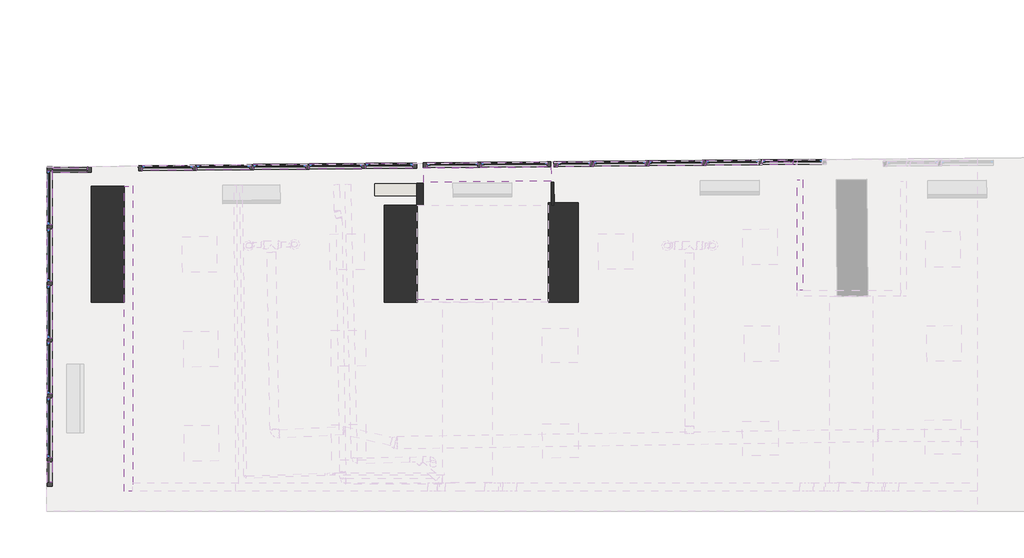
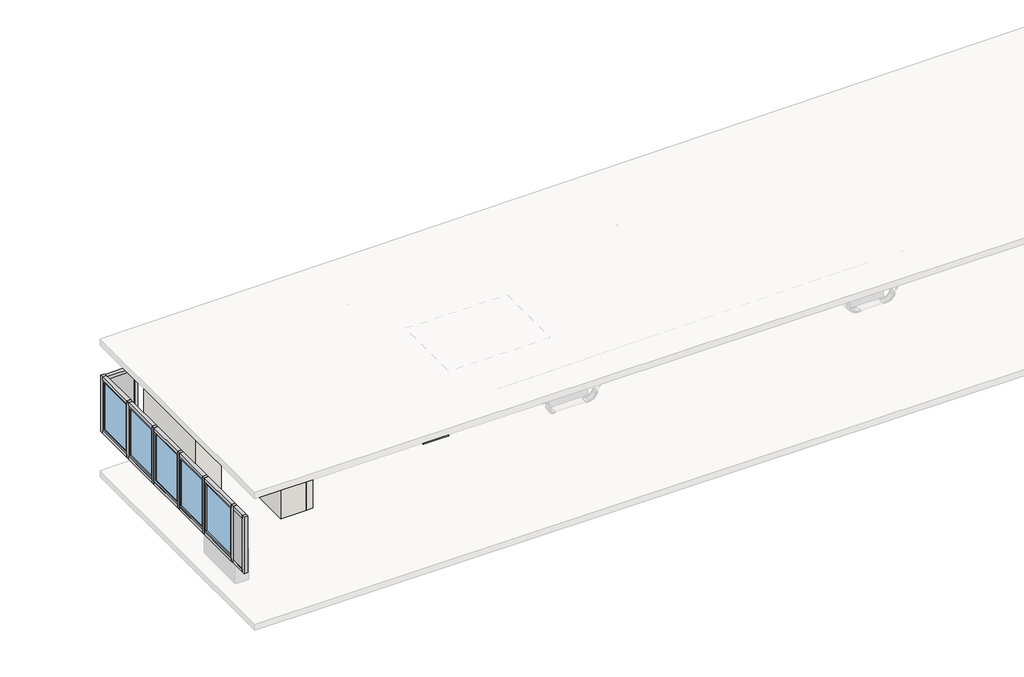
# One storey, part 1 of 8: 65 members, 18 windows, 10 walls, 2 plates.
"""IFC4 building model written with IfcOpenShell, lengths in millimetres."""

from ifc_helpers import new_model, si_unit, frame, origin, origin_with_axes, place, context, project, spatial, polyline, outline, extrude, faceted_brep, transform, mapped, element, save
from components import member_1d54d513, member_5f6233c0, member_701f3c1c, member_294ba3bf, member_2f45b62e, member_2e66d5be, member_0a0ddee2, member_9fea516c, member_449b8b0a, member_4e125583, member_1d18c5b6, member_edd1fded, member_3c992937, member_a387d0b7, member_274769e7, member_c3e0f3cf, member_8cefbdd1, member_f4af639a, member_dbbe5297, member_41a117a3, member_0174ca3d, member_7c31a16b, member_f5f536f5, member_f035e081, member_b95b39b1, member_4f72c76e, member_7ba8fbd5, member_18ee34ea, system_panel_glazed_8b8e7e0a, plate_85dd41af, curtain_wall_awning_curtain_wall_awning_2_f2d84640, curtain_wall_awning_curtain_wall_awning_2_74a93b62, curtain_wall_awning_curtain_wall_awning_2_efb4c519, curtain_wall_awning_curtain_wall_awning_2_b29e44a4, curtain_wall_awning_curtain_wall_awning_2_605577ea, curtain_wall_awning_curtain_wall_awning_2_abebb6bf, curtain_wall_awning_curtain_wall_awning_2_79e40004, curtain_wall_awning_curtain_wall_awning_2_1929c9be, curtain_wall_awning_curtain_wall_awning_2_0397bcab, curtain_wall_awning_curtain_wall_awning_2_7b8b8e84, curtain_wall_awning_curtain_wall_awning_2_373db1d4, curtain_wall_awning_curtain_wall_awning_2_e246922d, curtain_wall_awning_curtain_wall_awning_2_ee0f351f, curtain_wall_awning_curtain_wall_awning_2_a05563cf, curtain_wall_awning_curtain_wall_awning_2_6cab0b61, curtain_wall_awning_curtain_wall_awning_2_2b56300f, curtain_wall_awning_curtain_wall_awning_2_1036b38f

model = new_model("IFC4")

# Units and contexts
model_context = context("Model", 3, world=origin())
ifc_project = project(units=[si_unit("LENGTHUNIT", "METRE", prefix="MILLI")], contexts=[model_context])

# Site, building, storey
site = spatial("IfcSite", under=ifc_project)
building = spatial("IfcBuilding", under=site)
storey = spatial("IfcBuildingStorey", under=building, Name="GFL", Elevation=0.0)

# Members
placement = place(None, origin())
member_shape = member_1d54d513(model_context)
element("IfcMember", 1, ObjectType="Rectangular Mullion : 2.5\" x 5\" rectangular 2", at=placement, inside=storey, context=model_context, shape_type="MappedRepresentation", body=[
    mapped(member_shape, transform((-45371.0223245, 1429.4491383, 2307.6227604), x_axis=(0.0, -1.0, 0.0), y_axis=(1.0, 0.0, 0.0), z_axis=(0.0, 0.0, 1.0))),
])
element("IfcMember", 2, ObjectType="Rectangular Mullion : 2.5\" x 5\" rectangular 2", at=placement, inside=storey, context=model_context, shape_type="MappedRepresentation", body=[
    mapped(member_shape, transform((-44630.6803923, 7038.9935743, 2307.6227604), x_axis=(0.999958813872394, 0.009075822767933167, 0.0), y_axis=(-0.009075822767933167, 0.999958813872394, 0.0), z_axis=(0.0, 0.0, 1.0))),
])
member_2_shape = member_5f6233c0(model_context)
element("IfcMember", 3, ObjectType="Rectangular Mullion : 2.5\" x 5\" rectangular 2", at=placement, inside=storey, context=model_context, shape_type="MappedRepresentation", body=[
    mapped(member_2_shape, transform((-45371.0223245, 1896.1741383, 941.5427435), x_axis=(0.0, 1.0, 0.0), y_axis=(1.0, 0.0, 0.0), z_axis=(0.0, 0.0, -1.0))),
])
element("IfcMember", 4, ObjectType="Rectangular Mullion : 2.5\" x 5\" rectangular 2", at=placement, inside=storey, context=model_context, shape_type="MappedRepresentation", body=[
    mapped(member_2_shape, transform((-45371.0223245, 3029.6491383, 941.5427435), x_axis=(0.0, 1.0, 0.0), y_axis=(1.0, 0.0, 0.0), z_axis=(0.0, 0.0, -1.0))),
])
element("IfcMember", 5, ObjectType="Rectangular Mullion : 2.5\" x 5\" rectangular 2", at=placement, inside=storey, context=model_context, shape_type="MappedRepresentation", body=[
    mapped(member_2_shape, transform((-45371.0223245, 4020.2491383, 941.5427435), x_axis=(0.0, 1.0, 0.0), y_axis=(1.0, 0.0, 0.0), z_axis=(0.0, 0.0, -1.0))),
])
element("IfcMember", 6, ObjectType="Rectangular Mullion : 2.5\" x 5\" rectangular 2", at=placement, inside=storey, context=model_context, shape_type="MappedRepresentation", body=[
    mapped(member_2_shape, transform((-45371.0223245, 5024.4724572, 941.5427435), x_axis=(0.0, 1.0, 0.0), y_axis=(1.0, 0.0, 0.0), z_axis=(0.0, 0.0, -1.0))),
])
element("IfcMember", 7, ObjectType="Rectangular Mullion : 2.5\" x 5\" rectangular 2", at=placement, inside=storey, context=model_context, shape_type="MappedRepresentation", body=[
    mapped(member_2_shape, transform((-45371.0223245, 6028.6957761, 941.5427435), x_axis=(0.0, 1.0, 0.0), y_axis=(1.0, 0.0, 0.0), z_axis=(0.0, 0.0, -1.0))),
])
element("IfcMember", 8, ObjectType="Rectangular Mullion : 2.5\" x 5\" rectangular 2", at=placement, inside=storey, context=model_context, shape_type="MappedRepresentation", body=[
    mapped(member_shape, transform((-45371.0223245, 7096.9057421, 941.5427435), x_axis=(0.0, 1.0, 0.0), y_axis=(1.0, 0.0, 0.0), z_axis=(0.0, 0.0, -1.0))),
])
member_3_shape = member_701f3c1c(model_context)
element("IfcMember", 9, ObjectType="Rectangular Mullion : 2.5\" x 5\" rectangular 2", at=placement, inside=storey, context=model_context, shape_type="MappedRepresentation", body=[
    mapped(member_3_shape, transform((-45371.0223245, 1499.2991383, 941.5427435), x_axis=(0.0, 0.0, -1.0), y_axis=(1.0, 0.0, 0.0), z_axis=(0.0, -1.0, 0.0))),
])
element("IfcMember", 10, ObjectType="Rectangular Mullion : 2.5\" x 5\" rectangular 2", at=placement, inside=storey, context=model_context, shape_type="MappedRepresentation", body=[
    mapped(member_3_shape, transform((-45371.0223245, 1864.4241383, 2307.6227604), x_axis=(0.0, 0.0, 1.0), y_axis=(1.0, 0.0, 0.0), z_axis=(0.0, 1.0, 0.0))),
])
member_4_shape = member_294ba3bf(model_context)
element("IfcMember", 11, ObjectType="Rectangular Mullion : 2.5\" x 5\" rectangular 2", at=placement, inside=storey, context=model_context, shape_type="MappedRepresentation", body=[
    mapped(member_4_shape, transform((-45371.0223245, 1934.2741383, 941.5427435), x_axis=(0.0, 0.0, -1.0), y_axis=(1.0, 0.0, 0.0), z_axis=(0.0, -1.0, 0.0))),
])
element("IfcMember", 12, ObjectType="Rectangular Mullion : 2.5\" x 5\" rectangular 2", at=placement, inside=storey, context=model_context, shape_type="MappedRepresentation", body=[
    mapped(member_4_shape, transform((-45371.0223245, 2997.8991383, 2307.6227604), x_axis=(0.0, 0.0, 1.0), y_axis=(1.0, 0.0, 0.0), z_axis=(0.0, 1.0, 0.0))),
])
member_5_shape = member_2f45b62e(model_context)
element("IfcMember", 13, ObjectType="Rectangular Mullion : 2.5\" x 5\" rectangular 2", at=placement, inside=storey, context=model_context, shape_type="MappedRepresentation", body=[
    mapped(member_5_shape, transform((-45371.0223245, 3988.4991383, 2307.6227604), x_axis=(0.0, 0.0, 1.0), y_axis=(1.0, 0.0, 0.0), z_axis=(0.0, 1.0, 0.0))),
])
element("IfcMember", 14, ObjectType="Rectangular Mullion : 2.5\" x 5\" rectangular 2", at=placement, inside=storey, context=model_context, shape_type="MappedRepresentation", body=[
    mapped(member_5_shape, transform((-45371.0223245, 3067.7491383, 941.5427435), x_axis=(0.0, 0.0, -1.0), y_axis=(1.0, 0.0, 0.0), z_axis=(0.0, -1.0, 0.0))),
])
member_6_shape = member_2e66d5be(model_context)
element("IfcMember", 15, ObjectType="Rectangular Mullion : 2.5\" x 5\" rectangular 2", at=placement, inside=storey, context=model_context, shape_type="MappedRepresentation", body=[
    mapped(member_6_shape, transform((-45371.0223245, 4058.3491383, 941.5427435), x_axis=(0.0, 0.0, -1.0), y_axis=(1.0, 0.0, 0.0), z_axis=(0.0, -1.0, 0.0))),
])
element("IfcMember", 16, ObjectType="Rectangular Mullion : 2.5\" x 5\" rectangular 2", at=placement, inside=storey, context=model_context, shape_type="MappedRepresentation", body=[
    mapped(member_6_shape, transform((-45371.0223245, 5062.5724572, 941.5427435), x_axis=(0.0, 0.0, -1.0), y_axis=(1.0, 0.0, 0.0), z_axis=(0.0, -1.0, 0.0))),
])
element("IfcMember", 17, ObjectType="Rectangular Mullion : 2.5\" x 5\" rectangular 2", at=placement, inside=storey, context=model_context, shape_type="MappedRepresentation", body=[
    mapped(member_6_shape, transform((-45371.0223245, 4992.7224572, 2307.6227604), x_axis=(0.0, 0.0, 1.0), y_axis=(1.0, 0.0, 0.0), z_axis=(0.0, 1.0, 0.0))),
])
element("IfcMember", 18, ObjectType="Rectangular Mullion : 2.5\" x 5\" rectangular 2", at=placement, inside=storey, context=model_context, shape_type="MappedRepresentation", body=[
    mapped(member_6_shape, transform((-45371.0223245, 5996.9457761, 2307.6227604), x_axis=(0.0, 0.0, 1.0), y_axis=(1.0, 0.0, 0.0), z_axis=(0.0, 1.0, 0.0))),
])
member_7_shape = member_0a0ddee2(model_context)
element("IfcMember", 19, ObjectType="Rectangular Mullion : 2.5\" x 5\" rectangular 2", at=placement, inside=storey, context=model_context, shape_type="MappedRepresentation", body=[
    mapped(member_7_shape, transform((-42800.2985475, 7081.0053764, 941.5427435), x_axis=(0.999958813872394, 0.009075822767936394, 0.0), y_axis=(0.009075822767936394, -0.999958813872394, 0.0), z_axis=(0.0, 0.0, -1.0))),
])
element("IfcMember", 20, ObjectType="Rectangular Mullion : 2.5\" x 5\" rectangular 2", at=placement, inside=storey, context=model_context, shape_type="MappedRepresentation", body=[
    mapped(member_7_shape, transform((-41793.8650003, 7090.1399651, 941.5427435), x_axis=(0.999958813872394, 0.009075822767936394, 0.0), y_axis=(0.009075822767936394, -0.999958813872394, 0.0), z_axis=(0.0, 0.0, -1.0))),
])
element("IfcMember", 21, ObjectType="Rectangular Mullion : 2.5\" x 5\" rectangular 2", at=placement, inside=storey, context=model_context, shape_type="MappedRepresentation", body=[
    mapped(member_7_shape, transform((-39802.1637008, 7108.2170377, 941.5427435), x_axis=(0.999958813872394, 0.009075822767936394, 0.0), y_axis=(0.009075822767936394, -0.999958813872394, 0.0), z_axis=(0.0, 0.0, -1.0))),
])
element("IfcMember", 22, ObjectType="Rectangular Mullion : 2.5\" x 5\" rectangular 2", at=placement, inside=storey, context=model_context, shape_type="MappedRepresentation", body=[
    mapped(member_7_shape, transform((-40801.1892198, 7099.1496857, 941.5427435), x_axis=(0.999958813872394, 0.009075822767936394, 0.0), y_axis=(0.009075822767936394, -0.999958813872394, 0.0), z_axis=(0.0, 0.0, -1.0))),
])
member_8_shape = member_9fea516c(model_context)
element("IfcMember", 23, ObjectType="Rectangular Mullion : 2.5\" x 5\" rectangular 2", at=placement, inside=storey, context=model_context, shape_type="MappedRepresentation", body=[
    mapped(member_8_shape, transform((-38860.2858281, 7116.7657064, 941.5427435), x_axis=(0.999958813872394, 0.009075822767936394, 0.0), y_axis=(0.009075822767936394, -0.999958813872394, 0.0), z_axis=(0.0, 0.0, -1.0))),
])
member_9_shape = member_449b8b0a(model_context)
element("IfcMember", 24, ObjectType="Rectangular Mullion : 2.5\" x 5\" rectangular 2", at=placement, inside=storey, context=model_context, shape_type="MappedRepresentation", body=[
    mapped(member_9_shape, transform((-39833.9123932, 7107.9288803, 2317.4781885), x_axis=(0.0, 0.0, 1.0), y_axis=(0.009075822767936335, -0.9999588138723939, 0.0), z_axis=(0.9999588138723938, 0.009075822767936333, 0.0))),
])
member_10_shape = member_4e125583(model_context)
element("IfcMember", 25, ObjectType="Rectangular Mullion : 2.5\" x 5\" rectangular 2", at=placement, inside=storey, context=model_context, shape_type="MappedRepresentation", body=[
    mapped(member_10_shape, transform((-40832.9379121, 7098.8615283, 2317.4781885), x_axis=(0.0, 0.0, 1.0), y_axis=(0.009075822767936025, -0.999958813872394, 0.0), z_axis=(0.999958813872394, 0.009075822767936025, 0.0))),
])
member_11_shape = member_1d18c5b6(model_context)
element("IfcMember", 26, ObjectType="Rectangular Mullion : 2.5\" x 5\" rectangular 2", at=placement, inside=storey, context=model_context, shape_type="MappedRepresentation", body=[
    mapped(member_11_shape, transform((-41825.6136927, 7089.8518078, 2317.4781885), x_axis=(0.0, 0.0, 1.0), y_axis=(0.009075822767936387, -0.9999588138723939, 0.0), z_axis=(0.9999588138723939, 0.009075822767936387, 0.0))),
])
member_12_shape = member_edd1fded(model_context)
element("IfcMember", 27, ObjectType="Rectangular Mullion : 2.5\" x 5\" rectangular 2", at=placement, inside=storey, context=model_context, shape_type="MappedRepresentation", body=[
    mapped(member_12_shape, transform((-42832.0472398, 7080.717219, 2317.4781885), x_axis=(0.0, 0.0, 1.0), y_axis=(0.00907582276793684, -0.9999588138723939, 0.0), z_axis=(0.9999588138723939, 0.00907582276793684, 0.0))),
])
member_13_shape = member_3c992937(model_context)
element("IfcMember", 28, ObjectType="Rectangular Mullion : 2.5\" x 5\" rectangular 2", at=placement, inside=storey, context=model_context, shape_type="MappedRepresentation", body=[
    mapped(member_13_shape, transform((-38930.1329512, 7116.1317602, 2317.4781885), x_axis=(0.0, 0.0, 1.0), y_axis=(0.009075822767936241, -0.9999588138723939, 0.0), z_axis=(0.9999588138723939, 0.009075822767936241, 0.0))),
])
element("IfcMember", 29, ObjectType="Rectangular Mullion : 2.5\" x 5\" rectangular 2", at=placement, inside=storey, context=model_context, shape_type="MappedRepresentation", body=[
    mapped(member_13_shape, transform((-39764.06527, 7108.5628265, 941.5427435), x_axis=(0.0, 0.0, -1.0), y_axis=(0.009075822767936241, -0.9999588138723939, 0.0), z_axis=(-0.9999588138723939, -0.009075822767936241, 0.0))),
])
element("IfcMember", 30, ObjectType="Rectangular Mullion : 2.5\" x 5\" rectangular 2", at=placement, inside=storey, context=model_context, shape_type="MappedRepresentation", body=[
    mapped(member_9_shape, transform((-40763.090789, 7099.4954745, 941.5427435), x_axis=(0.0, 0.0, -1.0), y_axis=(0.009075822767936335, -0.9999588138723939, 0.0), z_axis=(-0.9999588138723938, -0.009075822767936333, 0.0))),
])
element("IfcMember", 31, ObjectType="Rectangular Mullion : 2.5\" x 5\" rectangular 2", at=placement, inside=storey, context=model_context, shape_type="MappedRepresentation", body=[
    mapped(member_10_shape, transform((-41755.7665695, 7090.485754, 941.5427435), x_axis=(0.0, 0.0, -1.0), y_axis=(0.009075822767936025, -0.999958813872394, 0.0), z_axis=(-0.999958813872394, -0.009075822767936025, 0.0))),
])
element("IfcMember", 32, ObjectType="Rectangular Mullion : 2.5\" x 5\" rectangular 2", at=placement, inside=storey, context=model_context, shape_type="MappedRepresentation", body=[
    mapped(member_11_shape, transform((-42762.2001167, 7081.3511653, 941.5427435), x_axis=(0.0, 0.0, -1.0), y_axis=(0.009075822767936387, -0.9999588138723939, 0.0), z_axis=(-0.9999588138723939, -0.009075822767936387, 0.0))),
])
element("IfcMember", 33, ObjectType="Rectangular Mullion : 2.5\" x 5\" rectangular 2", at=placement, inside=storey, context=model_context, shape_type="MappedRepresentation", body=[
    mapped(member_12_shape, transform((-43724.7446921, 7072.6149215, 941.5427435), x_axis=(0.0, 0.0, -1.0), y_axis=(0.00907582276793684, -0.9999588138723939, 0.0), z_axis=(-0.9999588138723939, -0.00907582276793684, 0.0))),
])
element("IfcMember", 34, ObjectType="Rectangular Mullion : 2.5\" x 5\" rectangular 2", at=placement, inside=storey, context=model_context, shape_type="MappedRepresentation", body=[
    mapped(member_8_shape, transform((-43794.5918152, 7071.9809753, 2317.4781885), x_axis=(-0.999958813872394, -0.009075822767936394, 0.0), y_axis=(0.009075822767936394, -0.999958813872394, 0.0), z_axis=(0.0, 0.0, 1.0))),
])
member_14_shape = member_a387d0b7(model_context)
element("IfcMember", 35, ObjectType="Rectangular Mullion : 2.5\" x 5\" rectangular 2", at=placement, inside=storey, context=model_context, shape_type="MappedRepresentation", body=[
    mapped(member_14_shape, transform((-37751.8525918, 7126.8260643, 941.5427435), x_axis=(0.9999588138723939, 0.00907582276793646, 0.0), y_axis=(0.00907582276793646, -0.9999588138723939, 0.0), z_axis=(0.0, 0.0, -1.0))),
])
member_15_shape = member_274769e7(model_context)
element("IfcMember", 36, ObjectType="Rectangular Mullion : 2.5\" x 5\" rectangular 2", at=placement, inside=storey, context=model_context, shape_type="MappedRepresentation", body=[
    mapped(member_15_shape, transform((-37783.6012841, 7126.537907, 1589.1201837), x_axis=(0.0, 0.0, 1.0), y_axis=(0.009075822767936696, -0.999958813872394, 0.0), z_axis=(0.999958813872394, 0.009075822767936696, 0.0))),
])
member_16_shape = member_c3e0f3cf(model_context)
element("IfcMember", 37, ObjectType="Rectangular Mullion : 2.5\" x 5\" rectangular 2", at=placement, inside=storey, context=model_context, shape_type="MappedRepresentation", body=[
    mapped(member_16_shape, transform((-36551.7520213, 7137.718413, 1589.1201837), x_axis=(0.0, 0.0, 1.0), y_axis=(0.009075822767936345, -0.999958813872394, 0.0), z_axis=(0.999958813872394, 0.009075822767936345, 0.0))),
])
member_17_shape = member_8cefbdd1(model_context)
element("IfcMember", 38, ObjectType="Rectangular Mullion : 2.5\" x 5\" rectangular 2", at=placement, inside=storey, context=model_context, shape_type="MappedRepresentation", body=[
    mapped(member_17_shape, transform((-38742.4117928, 7117.8355543, 1589.1201837), x_axis=(-0.9999588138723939, -0.00907582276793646, 0.0), y_axis=(0.00907582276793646, -0.9999588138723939, 0.0), z_axis=(0.0, 0.0, 1.0))),
])
element("IfcMember", 39, ObjectType="Rectangular Mullion : 2.5\" x 5\" rectangular 2", at=placement, inside=storey, context=model_context, shape_type="MappedRepresentation", body=[
    mapped(member_16_shape, transform((-37713.7541609, 7127.1718532, 941.5427435), x_axis=(0.0, 0.0, -1.0), y_axis=(0.009075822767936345, -0.999958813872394, 0.0), z_axis=(-0.999958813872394, -0.009075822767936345, 0.0))),
])
element("IfcMember", 40, ObjectType="Rectangular Mullion : 2.5\" x 5\" rectangular 2", at=placement, inside=storey, context=model_context, shape_type="MappedRepresentation", body=[
    mapped(member_15_shape, transform((-38672.5646696, 7118.4695005, 941.5427435), x_axis=(0.0, 0.0, -1.0), y_axis=(0.009075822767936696, -0.999958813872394, 0.0), z_axis=(-0.999958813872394, -0.009075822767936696, 0.0))),
])
element("IfcMember", 41, ObjectType="Rectangular Mullion : 2.5\" x 5\" rectangular 2", at=placement, inside=storey, context=model_context, shape_type="MappedRepresentation", body=[
    mapped(member_17_shape, transform((-36481.9048981, 7138.3523593, 941.5427435), x_axis=(0.9999588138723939, 0.00907582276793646, 0.0), y_axis=(0.00907582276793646, -0.9999588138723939, 0.0), z_axis=(0.0, 0.0, -1.0))),
])
member_18_shape = member_f4af639a(model_context)
element("IfcMember", 42, ObjectType="Rectangular Mullion : 2.5\" x 5\" rectangular 2", at=placement, inside=storey, context=model_context, shape_type="MappedRepresentation", body=[
    mapped(member_18_shape, transform((-36431.5697398, 7138.8092111, 2317.4781885), x_axis=(-0.9999588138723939, -0.009075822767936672, 0.0), y_axis=(0.009075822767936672, -0.9999588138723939, 0.0), z_axis=(0.0, 0.0, 1.0))),
])
element("IfcMember", 43, ObjectType="Rectangular Mullion : 2.5\" x 5\" rectangular 2", at=placement, inside=storey, context=model_context, shape_type="MappedRepresentation", body=[
    mapped(member_18_shape, transform((-32118.4758307, 7177.9556992, 1519.2701837), x_axis=(0.9999588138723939, 0.009075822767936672, 0.0), y_axis=(0.009075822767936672, -0.9999588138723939, 0.0), z_axis=(0.0, 0.0, -1.0))),
])
member_19_shape = member_dbbe5297(model_context)
element("IfcMember", 44, ObjectType="Rectangular Mullion : 2.5\" x 5\" rectangular 2", at=placement, inside=storey, context=model_context, shape_type="MappedRepresentation", body=[
    mapped(member_19_shape, transform((-35758.4974622, 7144.9181474, 941.5427435), x_axis=(0.9999588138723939, 0.009075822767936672, 0.0), y_axis=(0.009075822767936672, -0.9999588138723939, 0.0), z_axis=(0.0, 0.0, -1.0))),
])
element("IfcMember", 45, ObjectType="Rectangular Mullion : 2.5\" x 5\" rectangular 2", at=placement, inside=storey, context=model_context, shape_type="MappedRepresentation", body=[
    mapped(member_19_shape, transform((-34780.6377381, 7153.7933944, 941.5427435), x_axis=(0.9999588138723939, 0.009075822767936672, 0.0), y_axis=(0.009075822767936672, -0.9999588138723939, 0.0), z_axis=(0.0, 0.0, -1.0))),
])
element("IfcMember", 46, ObjectType="Rectangular Mullion : 2.5\" x 5\" rectangular 2", at=placement, inside=storey, context=model_context, shape_type="MappedRepresentation", body=[
    mapped(member_19_shape, transform((-33764.6795832, 7163.0144304, 941.5427435), x_axis=(0.9999588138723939, 0.009075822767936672, 0.0), y_axis=(0.009075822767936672, -0.9999588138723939, 0.0), z_axis=(0.0, 0.0, -1.0))),
])
element("IfcMember", 47, ObjectType="Rectangular Mullion : 2.5\" x 5\" rectangular 2", at=placement, inside=storey, context=model_context, shape_type="MappedRepresentation", body=[
    mapped(member_19_shape, transform((-32774.1203822, 7172.0049404, 941.5427435), x_axis=(0.9999588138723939, 0.009075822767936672, 0.0), y_axis=(0.009075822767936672, -0.9999588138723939, 0.0), z_axis=(0.0, 0.0, -1.0))),
])
member_20_shape = member_41a117a3(model_context)
element("IfcMember", 48, ObjectType="Rectangular Mullion : 2.5\" x 5\" rectangular 2", at=placement, inside=storey, context=model_context, shape_type="MappedRepresentation", body=[
    mapped(member_20_shape, transform((-34742.5393073, 7154.1391833, 941.5427435), x_axis=(0.0, 0.0, -1.0), y_axis=(0.009075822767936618, -0.999958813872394, 0.0), z_axis=(-0.999958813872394, -0.009075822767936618, 0.0))),
])
element("IfcMember", 49, ObjectType="Rectangular Mullion : 2.5\" x 5\" rectangular 2", at=placement, inside=storey, context=model_context, shape_type="MappedRepresentation", body=[
    mapped(member_20_shape, transform((-33796.4282755, 7162.726273, 2317.4781885), x_axis=(0.0, 0.0, 1.0), y_axis=(0.009075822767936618, -0.999958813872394, 0.0), z_axis=(0.999958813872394, 0.009075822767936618, 0.0))),
])
member_21_shape = member_0174ca3d(model_context)
element("IfcMember", 50, ObjectType="Rectangular Mullion : 2.5\" x 5\" rectangular 2", at=placement, inside=storey, context=model_context, shape_type="MappedRepresentation", body=[
    mapped(member_21_shape, transform((-36431.5697398, 7138.8092111, 1519.2701837), x_axis=(-0.9999588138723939, -0.009075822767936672, 0.0), y_axis=(0.009075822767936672, -0.9999588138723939, 0.0), z_axis=(0.0, 0.0, 1.0))),
])
member_22_shape = member_7c31a16b(model_context)
element("IfcMember", 51, ObjectType="Rectangular Mullion : 2.5\" x 5\" rectangular 2", at=placement, inside=storey, context=model_context, shape_type="MappedRepresentation", body=[
    mapped(member_22_shape, transform((-35758.4974622, 7144.9181474, 1519.2701837), x_axis=(0.9999588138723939, 0.009075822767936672, 0.0), y_axis=(0.009075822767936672, -0.9999588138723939, 0.0), z_axis=(0.0, 0.0, -1.0))),
])
element("IfcMember", 52, ObjectType="Rectangular Mullion : 2.5\" x 5\" rectangular 2", at=placement, inside=storey, context=model_context, shape_type="MappedRepresentation", body=[
    mapped(member_22_shape, transform((-34780.6377381, 7153.7933944, 1519.2701837), x_axis=(0.9999588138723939, 0.009075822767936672, 0.0), y_axis=(0.009075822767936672, -0.9999588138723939, 0.0), z_axis=(0.0, 0.0, -1.0))),
])
element("IfcMember", 53, ObjectType="Rectangular Mullion : 2.5\" x 5\" rectangular 2", at=placement, inside=storey, context=model_context, shape_type="MappedRepresentation", body=[
    mapped(member_22_shape, transform((-33764.6795832, 7163.0144304, 1519.2701837), x_axis=(0.9999588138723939, 0.009075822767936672, 0.0), y_axis=(0.009075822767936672, -0.9999588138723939, 0.0), z_axis=(0.0, 0.0, -1.0))),
])
member_23_shape = member_f5f536f5(model_context)
element("IfcMember", 54, ObjectType="Rectangular Mullion : 2.5\" x 5\" rectangular 2", at=placement, inside=storey, context=model_context, shape_type="MappedRepresentation", body=[
    mapped(member_23_shape, transform((-36361.7226166, 7139.4431573, 941.5427435), x_axis=(0.0, 0.0, -1.0), y_axis=(0.009075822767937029, -0.9999588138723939, 0.0), z_axis=(-0.9999588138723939, -0.009075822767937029, 0.0))),
])
member_24_shape = member_f035e081(model_context)
element("IfcMember", 55, ObjectType="Rectangular Mullion : 2.5\" x 5\" rectangular 2", at=placement, inside=storey, context=model_context, shape_type="MappedRepresentation", body=[
    mapped(member_24_shape, transform((-35720.3990313, 7145.2639362, 941.5427435), x_axis=(0.0, 0.0, -1.0), y_axis=(0.009075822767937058, -0.9999588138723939, 0.0), z_axis=(-0.9999588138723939, -0.009075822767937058, 0.0))),
])
element("IfcMember", 56, ObjectType="Rectangular Mullion : 2.5\" x 5\" rectangular 2", at=placement, inside=storey, context=model_context, shape_type="MappedRepresentation", body=[
    mapped(member_23_shape, transform((-35790.2461545, 7144.62999, 2317.4781885), x_axis=(0.0, 0.0, 1.0), y_axis=(0.009075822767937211, -0.9999588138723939, 0.0), z_axis=(0.9999588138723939, 0.009075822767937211, 0.0))),
])
element("IfcMember", 57, ObjectType="Rectangular Mullion : 2.5\" x 5\" rectangular 2", at=placement, inside=storey, context=model_context, shape_type="MappedRepresentation", body=[
    mapped(member_24_shape, transform((-34812.3864304, 7153.5052371, 2317.4781885), x_axis=(0.0, 0.0, 1.0), y_axis=(0.009075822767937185, -0.9999588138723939, 0.0), z_axis=(0.9999588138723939, 0.009075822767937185, 0.0))),
])
member_25_shape = member_b95b39b1(model_context)
element("IfcMember", 58, ObjectType="Rectangular Mullion : 2.5\" x 5\" rectangular 2", at=placement, inside=storey, context=model_context, shape_type="MappedRepresentation", body=[
    mapped(member_25_shape, transform((-32188.3229538, 7177.321753, 2317.4781885), x_axis=(0.0, 0.0, 1.0), y_axis=(0.009075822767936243, -0.9999588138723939, 0.0), z_axis=(0.9999588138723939, 0.009075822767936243, 0.0))),
])
element("IfcMember", 59, ObjectType="Rectangular Mullion : 2.5\" x 5\" rectangular 2", at=placement, inside=storey, context=model_context, shape_type="MappedRepresentation", body=[
    mapped(member_5_shape, transform((-33726.5811524, 7163.3602192, 941.5427435), x_axis=(0.0, 0.0, -1.0), y_axis=(0.009075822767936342, -0.9999588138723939, 0.0), z_axis=(-0.9999588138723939, -0.009075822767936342, 0.0))),
])
member_26_shape = member_4f72c76e(model_context)
element("IfcMember", 60, ObjectType="Rectangular Mullion : 2.5\" x 5\" rectangular 2", at=placement, inside=storey, context=model_context, shape_type="MappedRepresentation", body=[
    mapped(member_26_shape, transform((-32736.0219513, 7172.3507293, 941.5427435), x_axis=(0.0, 0.0, -1.0), y_axis=(0.009075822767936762, -0.9999588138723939, 0.0), z_axis=(-0.9999588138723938, -0.00907582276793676, 0.0))),
])
element("IfcMember", 61, ObjectType="Rectangular Mullion : 2.5\" x 5\" rectangular 2", at=placement, inside=storey, context=model_context, shape_type="MappedRepresentation", body=[
    mapped(member_5_shape, transform((-32805.8690745, 7171.716783, 2317.4781885), x_axis=(0.0, 0.0, 1.0), y_axis=(0.009075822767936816, -0.999958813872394, 0.0), z_axis=(0.999958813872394, 0.009075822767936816, 0.0))),
])
member_27_shape = member_7ba8fbd5(model_context)
element("IfcMember", 62, ObjectType="Rectangular Mullion : 2.5\" x 5\" rectangular 2", at=placement, inside=storey, context=model_context, shape_type="MappedRepresentation", body=[
    mapped(member_27_shape, transform((-45326.5723245, 7032.6775223, 2307.6227604), x_axis=(0.0, 0.0, 1.0), y_axis=(-0.009075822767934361, 0.999958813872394, 0.0), z_axis=(-0.999958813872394, -0.009075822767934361, 0.0))),
])
element("IfcMember", 63, ObjectType="Rectangular Mullion : 2.5\" x 5\" rectangular 2", at=placement, inside=storey, context=model_context, shape_type="MappedRepresentation", body=[
    mapped(member_27_shape, transform((-44700.5275155, 7038.3596281, 941.5427435), x_axis=(0.0, 0.0, -1.0), y_axis=(-0.009075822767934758, 0.999958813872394, 0.0), z_axis=(0.9999588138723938, 0.009075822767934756, 0.0))),
])
member_28_shape = member_18ee34ea(model_context)
element("IfcMember", 64, ObjectType="Rectangular Mullion : 2.5\" x 5\" rectangular 2", at=placement, inside=storey, context=model_context, shape_type="MappedRepresentation", body=[
    mapped(member_28_shape, transform((-45371.0223245, 7027.0557421, 2307.6227604), x_axis=(0.0, 0.0, 1.0), y_axis=(1.0, 0.0, 0.0), z_axis=(0.0, 1.0, 0.0))),
])
element("IfcMember", 65, ObjectType="Rectangular Mullion : 2.5\" x 5\" rectangular 2", at=placement, inside=storey, context=model_context, shape_type="MappedRepresentation", body=[
    mapped(member_28_shape, transform((-45371.0223245, 6066.7957761, 941.5427435), x_axis=(0.0, 0.0, -1.0), y_axis=(1.0, 0.0, 0.0), z_axis=(0.0, -1.0, 0.0))),
])

# Plates
system_panel_glazed_shape = system_panel_glazed_8b8e7e0a(model_context)
element("IfcPlate", 66, ObjectType="System Panel : Glazed", at=placement, inside=storey, context=model_context, shape_type="MappedRepresentation", body=[
    mapped(system_panel_glazed_shape, transform((-45013.54992, 7035.5185752, 1011.3927435), x_axis=(-0.999958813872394, -0.009075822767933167, 0.0), y_axis=(0.009075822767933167, -0.999958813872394, 0.0), z_axis=(0.0, 0.0, 1.0))),
])
plate_shape = plate_85dd41af(model_context)
element("IfcPlate", 67, ObjectType="System Panel : Glazed 1\"", at=placement, inside=storey, context=model_context, shape_type="MappedRepresentation", body=[
    mapped(plate_shape, transform((-45371.0223245, 1681.8616383, 1011.3927435), x_axis=(0.0, 1.0, 0.0), y_axis=(-1.0, 0.0, 0.0), z_axis=(0.0, 0.0, 1.0))),
])

# Walls
element("IfcWall", 68, ObjectType="Generic - 1'11\"", at=placement, inside=storey, context=model_context, shape_type="Brep", body=[
    faceted_brep([(-39440.1143618, 6414.2702534, 0.0), (-39440.1143618, 4690.640172, 0.0), (-39440.1143618, 4690.640172, 3028.95), (-39440.1143618, 6414.2702534, 3028.95), (-38855.9143618, 6414.2702534, 0.0), (-38855.9143618, 6414.2702534, 3028.95), (-38855.9143618, 4741.440172, 3028.95), (-38855.9143618, 4690.640172, 3028.95), (-38855.9143618, 4690.640172, 1571.6703219), (-38855.9143618, 4690.640172, 0.0), (-38857.288104, 6414.2702534, 0.0), (-38857.288104, 6414.2702534, 3028.95)], [[[0, 1, 2, 3]], [[4, 5, 6, 7, 8, 9]], [[1, 0, 10, 4, 9]], [[0, 3, 11, 5, 4, 10]], [[2, 1, 9, 8, 7]], [[3, 2, 7, 6, 5, 11]]]),
])
element("IfcWall", 69, ObjectType="Generic - 1'11\"", at=placement, inside=storey, context=model_context, shape_type="Brep", body=[
    faceted_brep([(-44630.6658127, 1340.5491383, 3028.95), (-44630.6658127, 6746.8868569, 3028.95), (-44630.6658127, 6746.8868569, 0.0), (-44630.6658127, 4692.6700232, 0.0), (-44630.6658127, 4692.6700232, 2051.9443145), (-44630.6658127, 1340.5491383, 2051.9443145), (-44046.4658127, 6752.189171, 3028.95), (-44046.4658127, 1340.5491383, 3028.95), (-44046.4658127, 1340.5491383, 2051.9443145), (-44046.4658127, 4692.6700232, 2051.9443145), (-44046.4658127, 4692.6700232, 1677.6419176), (-44046.4658127, 4692.6700232, 0.0), (-44046.4658127, 6752.189171, 0.0), (-44046.4658127, 6752.189171, 1677.6419176)], [[[0, 1, 2, 3, 4, 5]], [[6, 7, 8, 9, 10, 11, 12, 13]], [[2, 12, 11, 3]], [[1, 0, 7, 6]], [[2, 1, 6, 13, 12]], [[7, 0, 5, 8]], [[4, 9, 8, 5]], [[9, 4, 3, 11, 10]]]),
])
element("IfcWall", 70, ObjectType="Generic - 10\"", at=placement, inside=storey, context=model_context, shape_type="SweptSolid", body=[
    extrude(outline(polyline([(-36479.1962188, 6839.9146513), (-38739.7031135, 6819.3978463), (-38742.0083725, 7073.387385), (-36481.5014778, 7093.90419), (-36479.1962188, 6839.9146513)])), frame((0.0, 0.0, 1519.2701837), z_axis=(0.0, 0.0, 1.0), x_axis=(1.0, 0.0, 0.0)), (0.0, 0.0, 1.0), 69.85),
])
element("IfcWall", 71, ObjectType="Generic - 19.5\" 2", at=placement, inside=storey, context=model_context, shape_type="Brep", body=[
    faceted_brep([(-36533.1697398, 6455.5486684, 0.0), (-36533.1697398, 4690.640172, 0.0), (-36533.1697398, 4690.640172, 1571.6703219), (-36533.1697398, 4690.640172, 3028.95), (-36533.1697398, 4741.440172, 3028.95), (-36533.1697398, 6455.5486684, 3028.95), (-35999.7697398, 4690.640172, 0.0), (-35999.7697398, 6455.5486684, 0.0), (-35999.7697398, 6455.5486684, 3028.95), (-35999.7697398, 4690.640172, 3028.95), (-36475.7076376, 6455.5486684, 0.0), (-36475.2489525, 6405.0115132, 0.0), (-36424.4510447, 6405.472565, 0.0), (-36424.9055453, 6455.5486684, 0.0), (-36475.7076376, 6455.5486684, 3028.95), (-36424.9055453, 6455.5486684, 3028.95), (-36475.2489525, 6405.0115132, 3028.95), (-36424.4510447, 6405.472565, 3028.95)], [[[0, 1, 2, 3, 4, 5]], [[6, 7, 8, 9]], [[1, 0, 10, 11, 12, 13, 7, 6]], [[0, 5, 14, 10]], [[8, 7, 13, 15]], [[3, 2, 1, 6, 9]], [[16, 11, 10, 14]], [[12, 17, 15, 13]], [[11, 16, 17, 12]], [[5, 4, 3, 9, 8, 15, 17, 16, 14]]]),
])
element("IfcWall", 72, ObjectType="Generic - 2\"", at=placement, inside=storey, context=model_context, shape_type="SweptSolid", body=[
    extrude(outline(polyline([(-36533.1697398, 4690.640172), (-38855.9143618, 4690.640172), (-38855.9143618, 4741.440172), (-36533.1697398, 4741.440172), (-36533.1697398, 4690.640172)])), frame((0.0, 0.0, 1666.875), z_axis=(0.0, 0.0, 1.0), x_axis=(1.0, 0.0, 0.0)), (0.0, 0.0, 1.0), 1362.075),
])
element("IfcWall", 73, ObjectType="Generic - 2\"", at=placement, inside=storey, context=model_context, shape_type="Brep", body=[
    faceted_brep([(-36479.0233909, 6820.872766, 0.0), (-36475.7076376, 6455.5486684, 0.0), (-36475.2489525, 6405.0115132, 0.0), (-36475.2489525, 6405.0115132, 3028.95), (-36475.7076376, 6455.5486684, 3028.95), (-36479.0233909, 6820.872766, 3028.95), (-36479.0233909, 6820.872766, 1589.1201837), (-36479.0233909, 6820.872766, 941.5427435), (-36424.4510447, 6405.472565, 0.0), (-36424.9055453, 6455.5486684, 0.0), (-36428.2254832, 6821.3338178, 0.0), (-36428.2254832, 6821.3338178, 941.5427435), (-36428.2254832, 6821.3338178, 2317.4781885), (-36428.2254832, 6821.3338178, 3028.95), (-36424.9055453, 6455.5486684, 3028.95), (-36424.4510447, 6405.472565, 3028.95)], [[[0, 1, 2, 3, 4, 5, 6, 7]], [[8, 9, 10, 11, 12, 13, 14, 15]], [[2, 1, 0, 10, 9, 8]], [[3, 2, 8, 15]], [[10, 0, 7, 6, 5, 13, 12, 11]], [[5, 4, 3, 15, 14, 13]]]),
])
element("IfcWall", 74, ObjectType="Generic - 4 1/2\"", at=placement, inside=storey, context=model_context, shape_type="Brep", body=[
    faceted_brep([(-38857.288104, 6799.2871679, 0.0), (-38857.288104, 6414.2702534, 0.0), (-38857.288104, 6414.2702534, 3028.95), (-38857.288104, 6799.2871679, 3028.95), (-38742.988104, 6800.3245772, 0.0), (-38742.988104, 6800.3245772, 3028.95), (-38742.988104, 6414.2702534, 3028.95), (-38742.988104, 6414.2702534, 0.0), (-38855.9143618, 6414.2702534, 0.0)], [[[0, 1, 2, 3]], [[4, 5, 6, 7]], [[1, 0, 4, 7, 8]], [[2, 1, 8, 7, 6]], [[0, 3, 5, 4]], [[3, 2, 6, 5]]]),
])
element("IfcWall", 75, ObjectType="Generic - 4\"", at=placement, inside=storey, context=model_context, shape_type="Brep", body=[
    faceted_brep([(-32118.4796389, 6860.4499183, 1589.1201837), (-32118.4796389, 4901.0286619, 1589.1201837), (-32118.4796389, 4901.0286619, 3028.95), (-32118.4796389, 6860.4499183, 3028.95), (-32016.8796389, 6861.3720599, 1589.1201837), (-32016.8796389, 6861.3720599, 3028.95), (-32016.8796389, 4901.0286619, 3028.95), (-32016.8796389, 4901.0286619, 1589.1201837), (-32115.5943235, 6860.476106, 1589.1201837)], [[[0, 1, 2, 3]], [[4, 5, 6, 7]], [[1, 0, 8, 4, 7]], [[2, 1, 7, 6]], [[0, 3, 5, 4, 8]], [[3, 2, 6, 5]]]),
])
element("IfcWall", 76, ObjectType="Generic - 6\"", at=placement, inside=storey, context=model_context, shape_type="Brep", body=[
    faceted_brep([(-43894.0658127, 6753.5723833, 1677.6419176), (-43894.0658127, 6753.5723833, 3028.95), (-43894.0658127, 1340.5491383, 3028.95), (-43894.0658127, 1340.5491383, 2051.9443145), (-43894.0658127, 4692.6700232, 2051.9443145), (-43894.0658127, 4692.6700232, 1677.6419176), (-44046.4658127, 6752.189171, 3028.95), (-44046.4658127, 6752.189171, 1677.6419176), (-44046.4658127, 4692.6700232, 1677.6419176), (-44046.4658127, 4692.6700232, 2051.9443145), (-44046.4658127, 1340.5491383, 2051.9443145), (-44046.4658127, 1340.5491383, 3028.95)], [[[0, 1, 2, 3, 4, 5]], [[6, 7, 8, 9, 10, 11]], [[7, 0, 5, 8]], [[1, 0, 7, 6]], [[2, 11, 10, 3]], [[9, 4, 3, 10]], [[4, 9, 8, 5]], [[2, 1, 6, 11]]]),
])
element("IfcWall", 77, ObjectType="Generic - 8 1/2\"", at=placement, inside=storey, context=model_context, shape_type="SweptSolid", body=[
    extrude(outline(polyline([(-38857.288104, 6583.3782755), (-39605.5751544, 6576.5866751), (-39607.5346245, 6792.477783), (-38857.288104, 6799.2871679), (-38857.288104, 6583.3782755)])), origin_with_axes(), (0.0, 0.0, 1.0), 223.2691012),
])

# Windows
curtain_wall_awning_curtain_wall_awning_2_shape = curtain_wall_awning_curtain_wall_awning_2_f2d84640(model_context)
element("IfcWindow", 78, ObjectType="Curtain Wall-Awning : Curtain Wall-Awning 2", at=placement, inside=storey, context=model_context, shape_type="MappedRepresentation", body=[
    mapped(curtain_wall_awning_curtain_wall_awning_2_shape, transform((-45371.0223245, 2466.0866383, 1011.3927435), x_axis=(0.0, 1.0, 0.0), y_axis=(-1.0, 0.0, 0.0), z_axis=(0.0, 0.0, 1.0))),
])
curtain_wall_awning_curtain_wall_awning_2_2_shape = curtain_wall_awning_curtain_wall_awning_2_74a93b62(model_context)
element("IfcWindow", 79, ObjectType="Curtain Wall-Awning : Curtain Wall-Awning 2", at=placement, inside=storey, context=model_context, shape_type="MappedRepresentation", body=[
    mapped(curtain_wall_awning_curtain_wall_awning_2_2_shape, transform((-45371.0223245, 4525.5357978, 1011.3927435), x_axis=(0.0, 1.0, 0.0), y_axis=(-1.0, 0.0, 0.0), z_axis=(0.0, 0.0, 1.0))),
])
element("IfcWindow", 80, ObjectType="Curtain Wall-Awning : Curtain Wall-Awning 2", at=placement, inside=storey, context=model_context, shape_type="MappedRepresentation", body=[
    mapped(curtain_wall_awning_curtain_wall_awning_2_2_shape, transform((-45371.0223245, 5529.7591167, 1011.3927435), x_axis=(0.0, 1.0, 0.0), y_axis=(-1.0, 0.0, 0.0), z_axis=(0.0, 0.0, 1.0))),
])
curtain_wall_awning_curtain_wall_awning_2_3_shape = curtain_wall_awning_curtain_wall_awning_2_efb4c519(model_context)
element("IfcWindow", 81, ObjectType="Curtain Wall-Awning : Curtain Wall-Awning 2", at=placement, inside=storey, context=model_context, shape_type="MappedRepresentation", body=[
    mapped(curtain_wall_awning_curtain_wall_awning_2_3_shape, transform((-45371.0223245, 3528.1241383, 1011.3927435), x_axis=(0.0, 1.0, 0.0), y_axis=(-1.0, 0.0, 0.0), z_axis=(0.0, 0.0, 1.0))),
])
curtain_wall_awning_curtain_wall_awning_2_4_shape = curtain_wall_awning_curtain_wall_awning_2_b29e44a4(model_context)
element("IfcWindow", 82, ObjectType="Curtain Wall-Awning : Curtain Wall-Awning 2", at=placement, inside=storey, context=model_context, shape_type="MappedRepresentation", body=[
    mapped(curtain_wall_awning_curtain_wall_awning_2_4_shape, transform((-43278.395966, 7076.6660703, 1011.3927435), x_axis=(0.999958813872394, 0.009075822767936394, 0.0), y_axis=(-0.009075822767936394, 0.999958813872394, 0.0), z_axis=(0.0, 0.0, 1.0))),
])
curtain_wall_awning_curtain_wall_awning_2_5_shape = curtain_wall_awning_curtain_wall_awning_2_605577ea(model_context)
element("IfcWindow", 83, ObjectType="Curtain Wall-Awning : Curtain Wall-Awning 2", at=placement, inside=storey, context=model_context, shape_type="MappedRepresentation", body=[
    mapped(curtain_wall_awning_curtain_wall_awning_2_5_shape, transform((-42293.9069047, 7085.6014865, 1011.3927435), x_axis=(0.999958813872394, 0.009075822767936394, 0.0), y_axis=(-0.009075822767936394, 0.999958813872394, 0.0), z_axis=(0.0, 0.0, 1.0))),
])
curtain_wall_awning_curtain_wall_awning_2_6_shape = curtain_wall_awning_curtain_wall_awning_2_abebb6bf(model_context)
element("IfcWindow", 84, ObjectType="Curtain Wall-Awning : Curtain Wall-Awning 2", at=placement, inside=storey, context=model_context, shape_type="MappedRepresentation", body=[
    mapped(curtain_wall_awning_curtain_wall_awning_2_6_shape, transform((-41294.3522408, 7094.6736411, 1011.3927435), x_axis=(0.999958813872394, 0.009075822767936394, 0.0), y_axis=(-0.009075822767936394, 0.999958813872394, 0.0), z_axis=(0.0, 0.0, 1.0))),
])
curtain_wall_awning_curtain_wall_awning_2_7_shape = curtain_wall_awning_curtain_wall_awning_2_79e40004(model_context)
element("IfcWindow", 85, ObjectType="Curtain Wall-Awning : Curtain Wall-Awning 2", at=placement, inside=storey, context=model_context, shape_type="MappedRepresentation", body=[
    mapped(curtain_wall_awning_curtain_wall_awning_2_7_shape, transform((-40298.5015911, 7103.7121774, 1011.3927435), x_axis=(0.999958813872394, 0.009075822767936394, 0.0), y_axis=(-0.009075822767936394, 0.999958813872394, 0.0), z_axis=(0.0, 0.0, 1.0))),
])
curtain_wall_awning_curtain_wall_awning_2_8_shape = curtain_wall_awning_curtain_wall_awning_2_1929c9be(model_context)
element("IfcWindow", 86, ObjectType="Curtain Wall-Awning : Curtain Wall-Awning 2", at=placement, inside=storey, context=model_context, shape_type="MappedRepresentation", body=[
    mapped(curtain_wall_awning_curtain_wall_awning_2_8_shape, transform((-39347.0991106, 7112.3472933, 1011.3927435), x_axis=(0.999958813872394, 0.009075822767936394, 0.0), y_axis=(-0.009075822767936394, 0.999958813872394, 0.0), z_axis=(0.0, 0.0, 1.0))),
])
curtain_wall_awning_curtain_wall_awning_2_9_shape = curtain_wall_awning_curtain_wall_awning_2_0397bcab(model_context)
element("IfcWindow", 87, ObjectType="Curtain Wall-Awning : Curtain Wall-Awning 2", at=placement, inside=storey, context=model_context, shape_type="MappedRepresentation", body=[
    mapped(curtain_wall_awning_curtain_wall_awning_2_9_shape, transform((-38228.0829769, 7122.5037038, 1011.3927435), x_axis=(0.9999588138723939, 0.00907582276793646, 0.0), y_axis=(-0.00907582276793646, 0.9999588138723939, 0.0), z_axis=(0.0, 0.0, 1.0))),
])
curtain_wall_awning_curtain_wall_awning_2_10_shape = curtain_wall_awning_curtain_wall_awning_2_7b8b8e84(model_context)
element("IfcWindow", 88, ObjectType="Curtain Wall-Awning : Curtain Wall-Awning 2", at=placement, inside=storey, context=model_context, shape_type="MappedRepresentation", body=[
    mapped(curtain_wall_awning_curtain_wall_awning_2_10_shape, transform((-37132.7530911, 7132.4451331, 1011.3927435), x_axis=(0.9999588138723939, 0.00907582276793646, 0.0), y_axis=(-0.00907582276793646, 0.9999588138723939, 0.0), z_axis=(0.0, 0.0, 1.0))),
])
curtain_wall_awning_curtain_wall_awning_2_11_shape = curtain_wall_awning_curtain_wall_awning_2_373db1d4(model_context)
element("IfcWindow", 89, ObjectType="Curtain Wall-Awning : Curtain Wall-Awning 2", at=placement, inside=storey, context=model_context, shape_type="MappedRepresentation", body=[
    mapped(curtain_wall_awning_curtain_wall_awning_2_11_shape, transform((-34269.4837914, 7158.4327281, 1011.3927435), x_axis=(0.9999588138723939, 0.009075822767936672, 0.0), y_axis=(-0.009075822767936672, 0.9999588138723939, 0.0), z_axis=(0.0, 0.0, 1.0))),
])
curtain_wall_awning_curtain_wall_awning_2_12_shape = curtain_wall_awning_curtain_wall_awning_2_e246922d(model_context)
element("IfcWindow", 90, ObjectType="Curtain Wall-Awning : Curtain Wall-Awning 2", at=placement, inside=storey, context=model_context, shape_type="MappedRepresentation", body=[
    mapped(curtain_wall_awning_curtain_wall_awning_2_12_shape, transform((-36075.9843856, 7142.0365736, 1011.3927435), x_axis=(0.9999588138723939, 0.009075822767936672, 0.0), y_axis=(-0.009075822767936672, 0.9999588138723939, 0.0), z_axis=(0.0, 0.0, 1.0))),
])
curtain_wall_awning_curtain_wall_awning_2_13_shape = curtain_wall_awning_curtain_wall_awning_2_ee0f351f(model_context)
element("IfcWindow", 91, ObjectType="Curtain Wall-Awning : Curtain Wall-Awning 2", at=placement, inside=storey, context=model_context, shape_type="MappedRepresentation", body=[
    mapped(curtain_wall_awning_curtain_wall_awning_2_13_shape, transform((-35266.3927309, 7149.3845866, 1011.3927435), x_axis=(0.9999588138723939, 0.009075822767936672, 0.0), y_axis=(-0.009075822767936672, 0.9999588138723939, 0.0), z_axis=(0.0, 0.0, 1.0))),
])
curtain_wall_awning_curtain_wall_awning_2_14_shape = curtain_wall_awning_curtain_wall_awning_2_a05563cf(model_context)
element("IfcWindow", 92, ObjectType="Curtain Wall-Awning : Curtain Wall-Awning 2", at=placement, inside=storey, context=model_context, shape_type="MappedRepresentation", body=[
    mapped(curtain_wall_awning_curtain_wall_awning_2_14_shape, transform((-33266.2251134, 7167.5385011, 1011.3927435), x_axis=(0.9999588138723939, 0.009075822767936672, 0.0), y_axis=(-0.009075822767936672, 0.9999588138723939, 0.0), z_axis=(0.0, 0.0, 1.0))),
])
curtain_wall_awning_curtain_wall_awning_2_15_shape = curtain_wall_awning_curtain_wall_awning_2_6cab0b61(model_context)
element("IfcWindow", 93, ObjectType="Curtain Wall-Awning : Curtain Wall-Awning 2", at=placement, inside=storey, context=model_context, shape_type="MappedRepresentation", body=[
    mapped(curtain_wall_awning_curtain_wall_awning_2_15_shape, transform((-32202.5358065, 7177.1927544, 1011.3927435), x_axis=(0.9999588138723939, 0.009075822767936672, 0.0), y_axis=(-0.009075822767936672, 0.9999588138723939, 0.0), z_axis=(0.0, 0.0, 1.0))),
])
curtain_wall_awning_curtain_wall_awning_2_16_shape = curtain_wall_awning_curtain_wall_awning_2_2b56300f(model_context)
element("IfcWindow", 94, ObjectType="Curtain Wall-Awning : Curtain Wall-Awning 2", at=placement, inside=storey, context=model_context, shape_type="MappedRepresentation", body=[
    mapped(curtain_wall_awning_curtain_wall_awning_2_16_shape, transform((-32462.1724526, 7174.8362411, 1519.2701837), x_axis=(0.9999588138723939, 0.009075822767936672, 0.0), y_axis=(-0.009075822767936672, 0.9999588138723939, 0.0), z_axis=(0.0, 0.0, 1.0))),
])
curtain_wall_awning_curtain_wall_awning_2_17_shape = curtain_wall_awning_curtain_wall_awning_2_1036b38f(model_context)
element("IfcWindow", 95, ObjectType="Curtain Wall-Awning : Curtain Wall-Awning 2", at=placement, inside=storey, context=model_context, shape_type="MappedRepresentation", body=[
    mapped(curtain_wall_awning_curtain_wall_awning_2_17_shape, transform((-45371.0223245, 6546.9257591, 1011.3927435), x_axis=(0.0, 1.0, 0.0), y_axis=(-1.0, 0.0, 0.0), z_axis=(0.0, 0.0, 1.0))),
])

save(model, "model.ifc")
